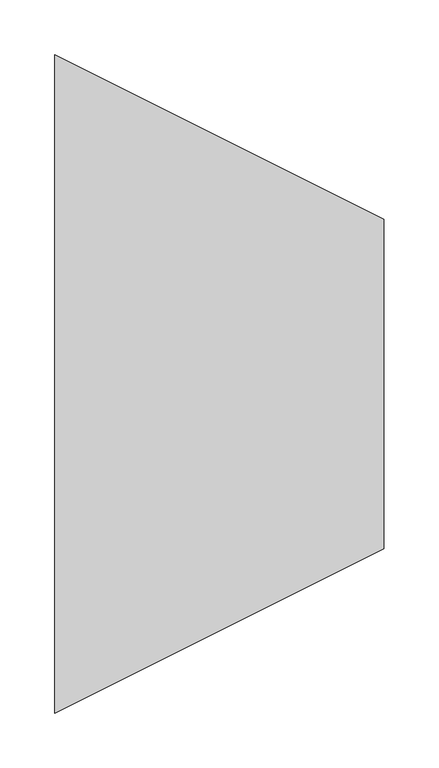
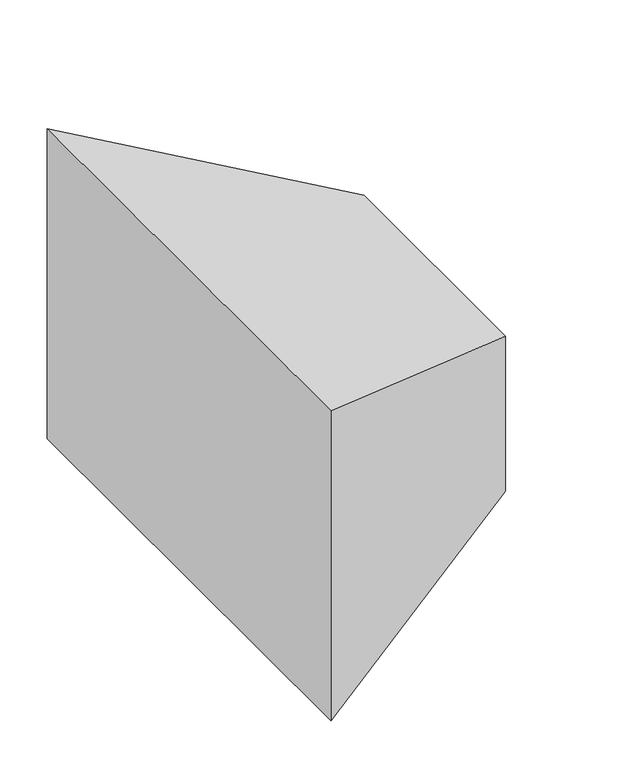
"""IFC4 building model written with IfcOpenShell, lengths in millimetres: duct fitting geometry, Prihoda Square Reducer : Prihoda Square Reducer."""

import ifcopenshell
import ifcopenshell.guid

model = None  # the IFC model being written
_history = None  # IfcOwnerHistory: only IFC2X3 demands one
_inside = {}  # id of a spatial element -> (the spatial element, [elements in it])
_under = {}  # id of a project, library or spatial element -> (it, [spatial elements below it])
_declared = {}  # id of a project -> (the project, [libraries it declares])
_typed = {}  # id of a type object -> (the type object, [elements of that type])
_made_of = {}  # id of a material, layer set ... -> (it, [elements and type objects made of it])


def new_model(schema):
    """Start an empty IFC model of exactly this schema.

    Asked for "IFC4X3", IfcOpenShell would pick the latest addendum, in which some entities
    have other attributes; the version numbers below select the first issue.
    IFC2X3 requires an IfcOwnerHistory on every rooted entity: one is made here for all.
    """
    global model, _history
    if schema == "IFC4X3":
        model = ifcopenshell.file(schema_version=(4, 3, 0, 0))
    else:
        model = ifcopenshell.file(schema=schema)
    _inside.clear()
    _under.clear()
    _declared.clear()
    _typed.clear()
    _made_of.clear()
    _history = None
    if model.schema == "IFC2X3":
        org = make("IfcOrganization", Name="unknown")
        user = make(
            "IfcPersonAndOrganization",
            ThePerson=make("IfcPerson", FamilyName="unknown"),
            TheOrganization=org,
        )
        app = make(
            "IfcApplication",
            ApplicationDeveloper=org,
            Version="unknown",
            ApplicationFullName="unknown",
            ApplicationIdentifier="unknown",
        )
        _history = make(
            "IfcOwnerHistory",
            OwningUser=user,
            OwningApplication=app,
            ChangeAction="ADDED",
            CreationDate=0,
        )
    return model


def make(cls, **values):
    """One entity of the class cls with the attributes given. An attribute that is None is left unset."""
    return model.create_entity(
        cls, **{name: value for name, value in values.items() if value is not None}
    )


def rooted(cls, **values):
    """An entity with a GlobalId (a new one), such as an element, a storey or a relation."""
    return make(cls, GlobalId=ifcopenshell.guid.new(), OwnerHistory=_history, **values)


def si_unit(unit_type, name, prefix=None):
    """IfcSIUnit, for example si_unit("LENGTHUNIT", "METRE", prefix="MILLI")."""
    return make("IfcSIUnit", UnitType=unit_type, Prefix=prefix, Name=name)


def assignment(units):
    """IfcUnitAssignment: the units of a project."""
    return None if units is None else make("IfcUnitAssignment", Units=units)


def point(xyz):
    """IfcCartesianPoint."""
    return None if xyz is None else make("IfcCartesianPoint", Coordinates=xyz)


def direction(xyz):
    """IfcDirection."""
    return None if xyz is None else make("IfcDirection", DirectionRatios=xyz)


def frame(location, z_axis=None, x_axis=None):
    """IfcAxis2Placement3D, a coordinate frame: its origin and axes. An axis left out is left unset."""
    return make(
        "IfcAxis2Placement3D",
        Location=point(location),
        Axis=direction(z_axis),
        RefDirection=direction(x_axis),
    )


def origin():
    """The frame at (0, 0, 0) with its axes left unset."""
    return frame((0.0, 0.0, 0.0))


def place(relative_to, where):
    """IfcLocalPlacement: puts the frame where relative to a parent placement (None: the world)."""
    return make(
        "IfcLocalPlacement", PlacementRelTo=relative_to, RelativePlacement=where
    )


def context(
    kind, dimensions, precision=None, world=None, true_north=None, identifier=None
):
    """IfcGeometricRepresentationContext, for example the 3D "Model" context."""
    return make(
        "IfcGeometricRepresentationContext",
        ContextIdentifier=identifier,
        ContextType=kind,
        CoordinateSpaceDimension=dimensions,
        Precision=precision,
        WorldCoordinateSystem=world,
        TrueNorth=true_north,
    )


def project(units=None, contexts=None):
    """IfcProject with its units and contexts."""
    return rooted(
        "IfcProject",
        Name="project",
        RepresentationContexts=contexts,
        UnitsInContext=assignment(units),
    )


def spatial(cls, under=None, at=None, **own):
    """A site, building, storey or space (cls), placed at a placement, below another one or the project."""
    s = rooted(cls, ObjectPlacement=at, **own)
    if under is not None:
        _under.setdefault(under.id(), (under, []))[1].append(s)
    return s


def faces_of(points, faces, orient=None, outer=None):
    """IfcFace entities. A face is a list of loops; a loop is a list of indices into points, from 0.

    orient and outer hold one flag for each loop. By default every Orientation is true, the
    first loop of a face is its IfcFaceOuterBound and the others are IfcFaceBound.
    """
    made = []
    for i, loops in enumerate(faces):
        bounds = []
        for j, loop in enumerate(loops):
            is_outer = j == 0 if outer is None else outer[i][j]
            bounds.append(
                make(
                    "IfcFaceOuterBound" if is_outer else "IfcFaceBound",
                    Bound=make("IfcPolyLoop", Polygon=[points[k] for k in loop]),
                    Orientation=True if orient is None else orient[i][j],
                )
            )
        made.append(make("IfcFace", Bounds=bounds))
    return made


def faceted_brep(points, faces, orient=None, outer=None, voids=None):
    """IfcFacetedBrep: a solid bounded by flat faces; with voids (closed shells), ...WithVoids."""
    shared = [point(p) for p in points]
    hull = make("IfcClosedShell", CfsFaces=faces_of(shared, faces, orient, outer))
    if voids is None:
        return make("IfcFacetedBrep", Outer=hull)
    return make(
        "IfcFacetedBrepWithVoids",
        Outer=hull,
        Voids=[
            make(cls, CfsFaces=faces_of(shared, fs, o, b)) for cls, fs, o, b in voids
        ],
    )


def shape(context_of_items, identifier, shape_type, items):
    """IfcShapeRepresentation: the items that make up one representation, for example the "Body"."""
    return make(
        "IfcShapeRepresentation",
        ContextOfItems=context_of_items,
        RepresentationIdentifier=identifier,
        RepresentationType=shape_type,
        Items=items,
    )


def source(mapping_origin, context_of_items, identifier, shape_type, items):
    """IfcRepresentationMap: a shape defined once, which mapped items show again and again."""
    return make(
        "IfcRepresentationMap",
        MappingOrigin=mapping_origin,
        MappedRepresentation=shape(context_of_items, identifier, shape_type, items),
    )


def transform(
    local_origin,
    x_axis=None,
    y_axis=None,
    z_axis=None,
    scale=None,
    scale2=None,
    scale3=None,
    uniform=True,
):
    """IfcCartesianTransformationOperator3D, or its non-uniform kind. x_axis, y_axis, z_axis: its Axis1, 2, 3."""
    if uniform:
        return make(
            "IfcCartesianTransformationOperator3D",
            Axis1=direction(x_axis),
            Axis2=direction(y_axis),
            LocalOrigin=point(local_origin),
            Scale=scale,
            Axis3=direction(z_axis),
        )
    return make(
        "IfcCartesianTransformationOperator3DnonUniform",
        Axis1=direction(x_axis),
        Axis2=direction(y_axis),
        LocalOrigin=point(local_origin),
        Scale=scale,
        Axis3=direction(z_axis),
        Scale2=scale2,
        Scale3=scale3,
    )


def mapped(mapping_source, mapping_target):
    """IfcMappedItem: shows the shape of a source again, moved by a transform."""
    return make(
        "IfcMappedItem", MappingSource=mapping_source, MappingTarget=mapping_target
    )


def made_of(thing, what):
    """Note that an element or type object is made of a material, layer set ...; save() writes the relation."""
    if what is not None:
        _made_of.setdefault(what.id(), (what, []))[1].append(thing)
    return thing


def element(
    cls,
    number,
    at=None,
    inside=None,
    cuts=None,
    type_object=None,
    material=None,
    context=None,
    identifier="Body",
    shape_type=None,
    held_by="IfcProductDefinitionShape",
    body=None,
    shapes=None,
    **own,
):
    """One element of the class cls, such as IfcWall. Its Tag is "e" and its number.

    at: its placement. inside: the storey or other place that contains it. cuts: it is an
    opening in that element (IfcRelVoidsElement). A single representation is given by context,
    identifier, shape_type and body (its items); several are given by shapes. held_by: the class
    of the entity that holds the representations. save() writes the other relations.
    """
    e = rooted(cls, Tag="e%d" % number, ObjectPlacement=at, **own)
    if body is not None:
        shapes = [shape(context, identifier, shape_type, body)]
    if shapes is not None:
        e.Representation = make(held_by, Representations=shapes)
    if inside is not None:
        _inside.setdefault(inside.id(), (inside, []))[1].append(e)
    if cuts is not None:
        rooted(
            "IfcRelVoidsElement", RelatingBuildingElement=cuts, RelatedOpeningElement=e
        )
    if type_object is not None:
        _typed.setdefault(type_object.id(), (type_object, []))[1].append(e)
    return made_of(e, material)


def aggregate(whole, parts):
    """IfcRelAggregates: a whole, such as a stair, and the parts it consists of."""
    return rooted("IfcRelAggregates", RelatingObject=whole, RelatedObjects=parts)


def save(model, path):
    """Write the relations noted so far, then the file.

    IfcRelAggregates (storeys below a building ...), IfcRelContainedInSpatialStructure (elements
    in a storey), IfcRelDefinesByType, IfcRelAssociatesMaterial and IfcRelDeclares: one each for
    every whole, place, type object, material and project.
    """
    for whole, parts in _under.values():
        aggregate(whole, parts)
    for where, things in _inside.values():
        rooted(
            "IfcRelContainedInSpatialStructure",
            RelatedElements=things,
            RelatingStructure=where,
        )
    for kind, things in _typed.values():
        rooted("IfcRelDefinesByType", RelatedObjects=things, RelatingType=kind)
    for what, things in _made_of.values():
        rooted("IfcRelAssociatesMaterial", RelatedObjects=things, RelatingMaterial=what)
    for by, libraries in _declared.values():
        rooted("IfcRelDeclares", RelatingContext=by, RelatedDefinitions=libraries)
    model.write(path)


def duct_fitting_f0b5bbc7(model_context):
    return source(origin(), model_context, "Body", "Brep", [
        faceted_brep([(300.0, 150.0, 100.0), (300.0, -150.0, 100.0), (300.0, -150.0, -100.0), (300.0, 150.0, -100.0), (0.0, 300.0, 200.0), (0.0, 300.0, -200.0), (0.0, -300.0, -200.0), (0.0, -300.0, 200.0)], [[[0, 1, 2, 3]], [[4, 5, 6, 7]], [[5, 4, 0, 3]], [[4, 7, 1, 0]], [[7, 6, 2, 1]], [[6, 5, 3, 2]]]),
    ])


if __name__ == "__main__":
    model = new_model("IFC4")
    model_context = context("Model", 3, world=origin())
    ifc_project = project(units=[si_unit("LENGTHUNIT", "METRE", prefix="MILLI")], contexts=[model_context])
    site = spatial("IfcSite", under=ifc_project)
    building = spatial("IfcBuilding", under=site)
    placement = place(None, origin())
    duct_fitting_shape = duct_fitting_f0b5bbc7(model_context)
    element("IfcDuctFitting", 1, ObjectType="Prihoda Square Reducer : Prihoda Square Reducer", at=placement, inside=building, context=model_context, shape_type="MappedRepresentation", body=[
        mapped(duct_fitting_shape, transform((0.0, 0.0, 0.0), x_axis=(1.0, 0.0, 0.0), y_axis=(0.0, 1.0, 0.0), z_axis=(0.0, 0.0, 1.0))),
    ])
    save(model, "model.ifc")
